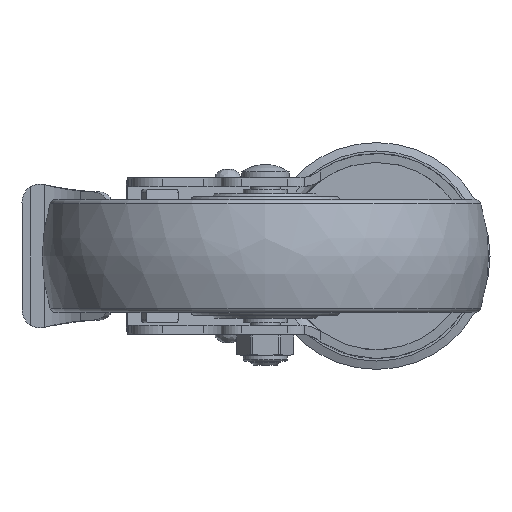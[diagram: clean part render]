
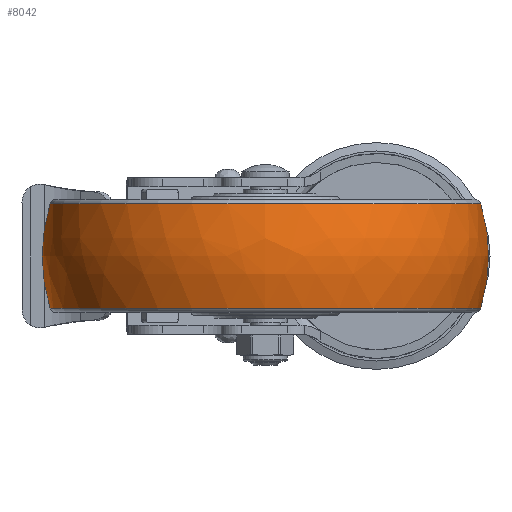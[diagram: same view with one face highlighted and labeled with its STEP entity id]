
A CAD part, front view. The second image highlights one B-rep face of the part: STEP entity #8042.
In plain terms, the highlighted free-form (B-spline) face has degree [3, 3] with [7, 4] control points.
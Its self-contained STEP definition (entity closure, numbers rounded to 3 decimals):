
#7285=CARTESIAN_POINT('',(-106.116,13.994,0.));
#7286=DIRECTION('',(-1.,0.,0.));
#7287=DIRECTION('',(0.,1.,0.));
#7288=AXIS2_PLACEMENT_3D('',#7285,#7286,#7287);
#7290=CARTESIAN_POINT('',(-88.53,28.994,0.));
#7291=DIRECTION('',(0.,0.,1.));
#7292=DIRECTION('',(0.293,0.956,0.));
#7293=AXIS2_PLACEMENT_3D('',#7290,#7291,#7292);
#7295=CARTESIAN_POINT('',(-88.53,-1.006,0.));
#7296=DIRECTION('',(0.,0.,-1.));
#7297=DIRECTION('',(0.293,-0.956,0.));
#7298=AXIS2_PLACEMENT_3D('',#7295,#7296,#7297);
#7300=CARTESIAN_POINT('',(-70.943,13.994,0.));
#7301=DIRECTION('',(-1.,0.,0.));
#7302=DIRECTION('',(0.,1.,0.));
#7303=AXIS2_PLACEMENT_3D('',#7300,#7301,#7302);
#7581=CARTESIAN_POINT('',(-70.943,86.359,0.));
#7583=VERTEX_POINT('',#7581);
#7584=CARTESIAN_POINT('',(-106.116,86.359,0.));
#7585=VERTEX_POINT('',#7584);
#7621=CARTESIAN_POINT('',(-70.943,-58.37,
0.));
#7623=VERTEX_POINT('',#7621);
#7624=CARTESIAN_POINT('',(-106.116,-58.37,
0.));
#7625=VERTEX_POINT('',#7624);
#8004=CARTESIAN_POINT('',(-106.797,-58.015,
4.53));
#8005=CARTESIAN_POINT('',(-94.818,-61.836,
4.771));
#8006=CARTESIAN_POINT('',(-82.241,-61.836,
4.771));
#8007=CARTESIAN_POINT('',(-70.262,-58.015,
4.53));
#8008=CARTESIAN_POINT('',(-106.797,-60.803,
-39.784));
#8009=CARTESIAN_POINT('',(-94.818,-64.772,
-41.895));
#8010=CARTESIAN_POINT('',(-82.241,-64.772,
-41.895));
#8011=CARTESIAN_POINT('',(-70.262,-60.803,
-39.784));
#8012=CARTESIAN_POINT('',(-106.797,-30.408,
-72.152));
#8013=CARTESIAN_POINT('',(-94.818,-32.764,
-75.981));
#8014=CARTESIAN_POINT('',(-82.241,-32.764,
-75.981));
#8015=CARTESIAN_POINT('',(-70.262,-30.408,
-72.152));
#8016=CARTESIAN_POINT('',(-106.797,13.994,
-72.152));
#8017=CARTESIAN_POINT('',(-94.818,13.994,
-75.981));
#8018=CARTESIAN_POINT('',(-82.241,13.994,
-75.981));
#8019=CARTESIAN_POINT('',(-70.262,13.994,
-72.152));
#8020=CARTESIAN_POINT('',(-106.797,58.396,
-72.152));
#8021=CARTESIAN_POINT('',(-94.818,60.753,
-75.981));
#8022=CARTESIAN_POINT('',(-82.241,60.753,
-75.981));
#8023=CARTESIAN_POINT('',(-70.262,58.396,
-72.152));
#8024=CARTESIAN_POINT('',(-106.797,88.792,
-39.784));
#8025=CARTESIAN_POINT('',(-94.818,92.761,
-41.895));
#8026=CARTESIAN_POINT('',(-82.241,92.761,
-41.895));
#8027=CARTESIAN_POINT('',(-70.262,88.792,
-39.784));
#8028=CARTESIAN_POINT('',(-106.797,86.004,4.53));
#8029=CARTESIAN_POINT('',(-94.818,89.825,4.771));
#8030=CARTESIAN_POINT('',(-82.241,89.825,4.771));
#8031=CARTESIAN_POINT('',(-70.262,86.004,4.53));
#8032=(BOUNDED_SURFACE()B_SPLINE_SURFACE(3,3,((#8004,#8005,#8006,#8007),(#8008,
#8009,#8010,#8011),(#8012,#8013,#8014,#8015),(#8016,#8017,#8018,#8019),(#8020,
#8021,#8022,#8023),(#8024,#8025,#8026,#8027),(#8028,#8029,#8030,#8031)),
.UNSPECIFIED.,.F.,.F.,.F.)B_SPLINE_SURFACE_WITH_KNOTS((4,3,4),(4,4),(0.,1.,
2.),(0.,1.),.UNSPECIFIED.)GEOMETRIC_REPRESENTATION_ITEM()RATIONAL_B_SPLINE_SURFACE(((1.216,1.178,1.178,1.216),(
0.96,0.93,0.93,0.96),(
0.96,0.93,0.93,0.96),(
1.216,1.178,1.178,1.216),(
0.96,0.93,0.93,0.96),(
0.96,0.93,0.93,0.96),(
1.216,1.178,1.178,1.216)))REPRESENTATION_ITEM('')SURFACE());
#8034=ORIENTED_EDGE('',*,*,#8033,.T.);
#8035=ORIENTED_EDGE('',*,*,#7999,.T.);
#8037=ORIENTED_EDGE('',*,*,#8036,.F.);
#8039=ORIENTED_EDGE('',*,*,#8038,.F.);
#8040=EDGE_LOOP('',(#8034,#8035,#8037,#8039));
#8041=FACE_OUTER_BOUND('',#8040,.F.);
#7289=CIRCLE('',#7288,72.365);
#7294=CIRCLE('',#7293,60.);
#7299=CIRCLE('',#7298,60.);
#7304=CIRCLE('',#7303,72.365);
#7999=EDGE_CURVE('',#7585,#7625,#7289,.T.);
#8033=EDGE_CURVE('',#7583,#7585,#7294,.T.);
#8036=EDGE_CURVE('',#7623,#7625,#7299,.T.);
#8038=EDGE_CURVE('',#7583,#7623,#7304,.T.);
#8042=ADVANCED_FACE('',(#8041),#8032,.T.);
